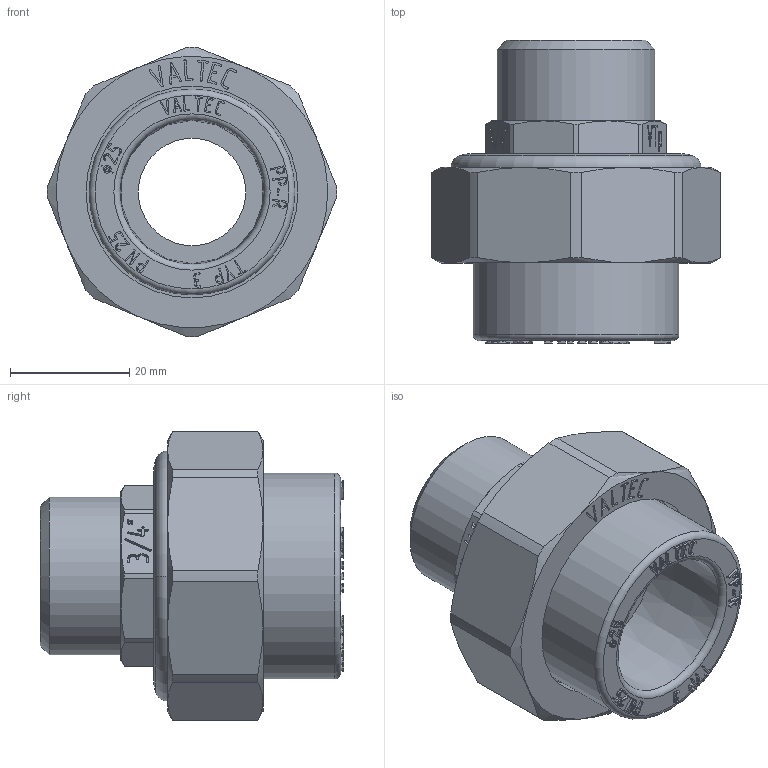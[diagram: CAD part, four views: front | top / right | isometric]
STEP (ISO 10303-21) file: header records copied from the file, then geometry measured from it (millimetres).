
FILE_DESCRIPTION(('STEP AP203'), '1');
FILE_NAME('VTp.761.0.02505', '', ('UNSPECIFIED'), ('UNSPECIFIED'), 'C3D Converter', 'C3D Toolkit', '');
FILE_SCHEMA(('CONFIG_CONTROL_DESIGN'));
Length unit declared in the file: millimetre
Products named in the file (1): ВР.302634.100.000 СБ
Bounding box: 48.5 x 50.8 x 48.5 mm (x, y, z)
Volume: 34154.4 mm3; surface area: 19130 mm2
Topology: 4 solids, 4 shells, 907 faces, 2509 edges, 1661 vertices
Faces by surface type: extrusion 495, plane 348, cylinder 29, cone 28, torus 7
Full cylindrical faces by diameter (mm): 18 x1, 20.5 x1, 23 x1, 26.441 x1, 27.5 x2, 33.5 x2, 34.5 x1, 35.5 x1, 38.5 x1, 38.953 x1, 41.9 x1
Entity records: 30121 total; most frequent: CARTESIAN_POINT 8955, ORIENTED_EDGE 4964, DIRECTION 2862, EDGE_CURVE 2482, VECTOR 1848, VERTEX_POINT 1660, B_SPLINE_CURVE_WITH_KNOTS 1529, LINE 1353
